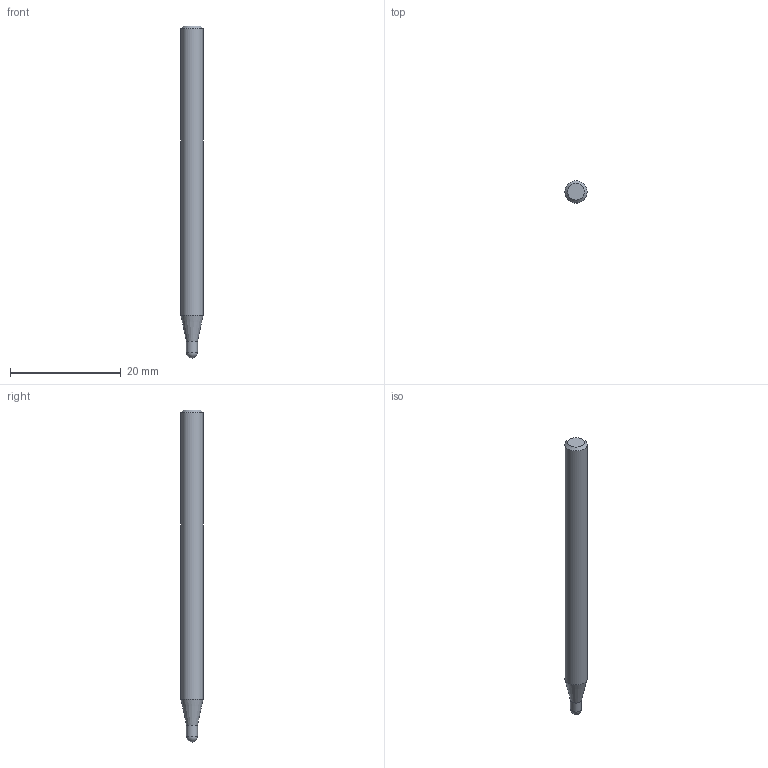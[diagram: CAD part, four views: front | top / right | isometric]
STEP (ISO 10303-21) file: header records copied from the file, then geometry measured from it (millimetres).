
FILE_DESCRIPTION((''),'2;1');
FILE_NAME('C:\Users\nsx150\AppData\Local\Temp\Mastercam 2021\98T1Q6BTT1\TEMP.step','2021-10-21T14:55:25',(''),(''),'STEP Write','Mastercam 2021 ... CNC Software, Inc.','');
FILE_SCHEMA(('AUTOMOTIVE_DESIGN'));
Length unit declared in the file: millimetre
Products named in the file (1): None
Bounding box: 4 x 4 x 60 mm (x, y, z)
Volume: 698.6 mm3; surface area: 736.2 mm2
Topology: 2 solids, 2 shells, 8 faces, 12 edges, 7 vertices
Faces by surface type: plane 3, cylinder 2, cone 2, sphere 1
Full cylindrical faces by diameter (mm): 2 x1, 4 x1
Entity records: 190 total; most frequent: DIRECTION 32, CARTESIAN_POINT 22, AXIS2_PLACEMENT_3D 16, ORIENTED_EDGE 12, EDGE_LOOP 12, STYLED_ITEM 11, ADVANCED_FACE 8, VERTEX_POINT 6
